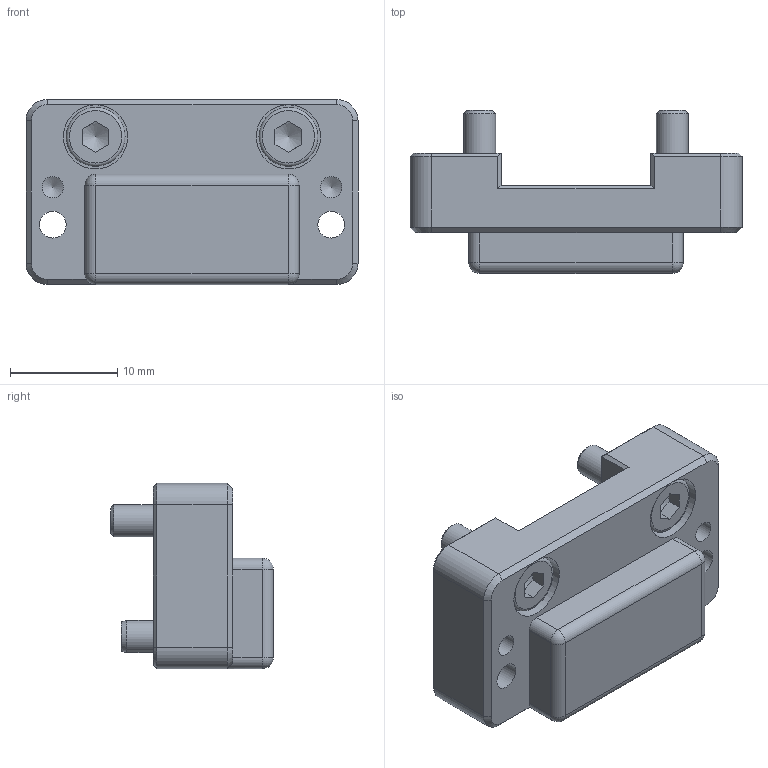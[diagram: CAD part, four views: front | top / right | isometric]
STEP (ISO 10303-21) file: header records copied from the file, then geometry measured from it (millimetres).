
FILE_DESCRIPTION(/* description */ (''),/* implementation_level */ '2;1');
FILE_NAME(/* name */ 'ZG-AP-SEK100-SHS050-O.stp',/* time_stamp */ '2024-11-13T16:03:53+01:00',/* author */ ('ysplieth'),/* organization */ (''),/* preprocessor_version */ 'ST-DEVELOPER v20',/* originating_system */ 'Autodesk Inventor 2024',/* authorisation */ '');
FILE_SCHEMA (('AUTOMOTIVE_DESIGN { 1 0 10303 214 3 1 1 }'));
Length unit declared in the file: millimetre
Products named in the file (1): Bauteil12
Bounding box: 31 x 15.2 x 17.3 mm (x, y, z)
Volume: 3879.6 mm3; surface area: 2666 mm2
Topology: 1 solids, 3 shells, 111 faces, 253 edges, 154 vertices
Faces by surface type: plane 55, cylinder 28, cone 20, torus 4, sphere 4
Full cylindrical faces by diameter (mm): 2 x2, 2.5 x2, 3 x6, 3.4 x2, 5.5 x2, 6 x2
Entity records: 3226 total; most frequent: DIRECTION 547, CARTESIAN_POINT 541, ORIENTED_EDGE 494, EDGE_CURVE 247, AXIS2_PLACEMENT_3D 202, VERTEX_POINT 154, LINE 143, VECTOR 143
